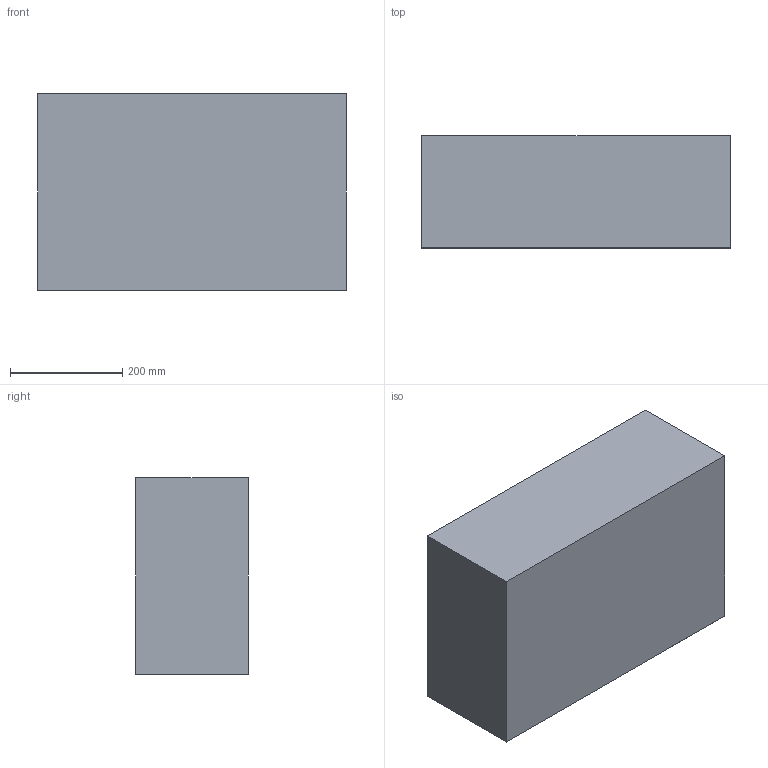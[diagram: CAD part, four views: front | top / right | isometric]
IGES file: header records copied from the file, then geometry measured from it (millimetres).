
Start section:  PTC IGES file: fu10009a.igs
Global section: file name: fu10009a.igs; native system: Pro/ENGINEER by Parametric Technology Corporation; preprocessor: 2010180; author: damjan; organization: Unknown; date: 20101207.150353; units: millimetre
Bounding box: 550 x 200 x 350 mm (x, y, z)
Volume: 38388480 mm3; surface area: 784744.4 mm2
Topology: 1 solids, 1 shells, 15 faces, 36 edges, 24 vertices
Faces by surface type: bspline 15
